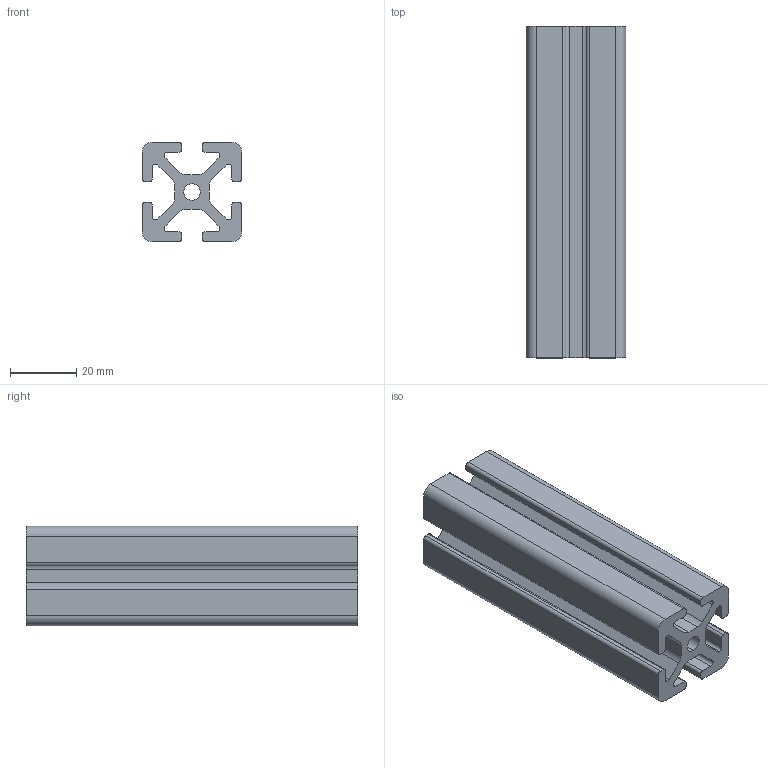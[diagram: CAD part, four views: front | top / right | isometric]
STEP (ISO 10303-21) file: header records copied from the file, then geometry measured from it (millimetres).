
FILE_DESCRIPTION (( 'STEP AP203' ), '1' );
FILE_NAME ('0106P3030S.STEP', '2024-02-27T14:15:43', ( 'Windows-Benutzer' ), ( '' ), 'SwSTEP 2.0', 'SolidWorks 2023', '' );
FILE_SCHEMA (( 'CONFIG_CONTROL_DESIGN' ));
Length unit declared in the file: millimetre
Products named in the file (1): 0106P3030S
Bounding box: 30 x 100 x 30 mm (x, y, z)
Volume: 45721.2 mm3; surface area: 26707.8 mm2
Topology: 1 solids, 1 shells, 78 faces, 228 edges, 152 vertices
Faces by surface type: cylinder 40, plane 38
Entity records: 2693 total; most frequent: DIRECTION 466, CARTESIAN_POINT 459, ORIENTED_EDGE 456, EDGE_CURVE 228, AXIS2_PLACEMENT_3D 159, VERTEX_POINT 152, VECTOR 148, LINE 148
